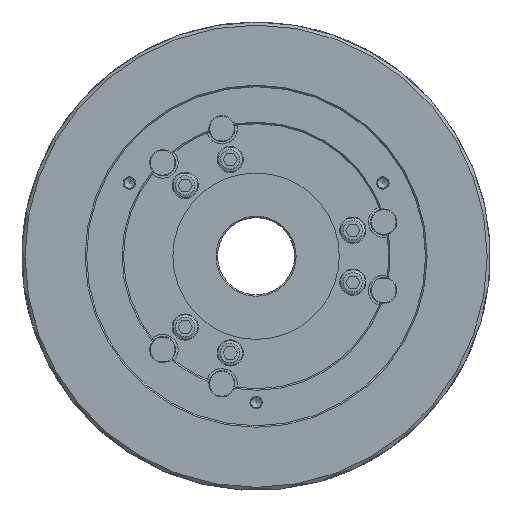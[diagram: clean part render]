
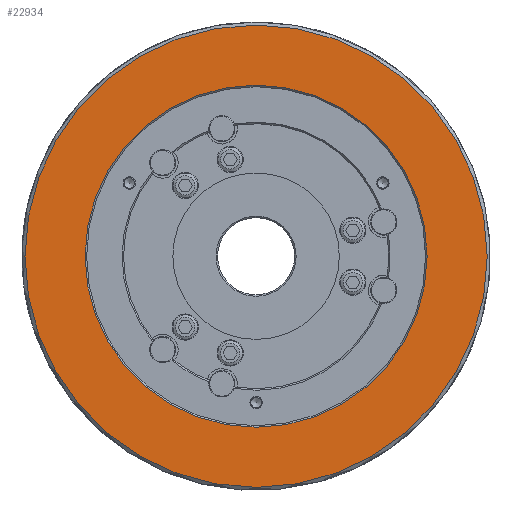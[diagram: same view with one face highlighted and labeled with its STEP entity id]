
A CAD part, left-side view. The second image highlights one B-rep face of the part: STEP entity #22934.
In plain terms, the highlighted planar face has unit normal (-1, 0, 0).
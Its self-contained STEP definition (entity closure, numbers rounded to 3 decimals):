
#3715 = CARTESIAN_POINT ( 'NONE',  ( -110., 0., 150. ) ) ;
#7917 = AXIS2_PLACEMENT_3D ( 'NONE', #88141, #73232, #28022 ) ;
#11818 = AXIS2_PLACEMENT_3D ( 'NONE', #16437, #69266, #24055 ) ;
#13168 = ORIENTED_EDGE ( 'NONE', *, *, #60218, .T. ) ;
#16437 = CARTESIAN_POINT ( 'NONE',  ( -110., 0., 0. ) ) ;
#19280 = CIRCLE ( 'NONE', #62295, 150. ) ;
#22768 = CARTESIAN_POINT ( 'NONE',  ( -110., 0., 0. ) ) ;
#22934 = ADVANCED_FACE ( 'NONE', ( #40712, #78501 ), #65582, .T. ) ;
#24055 = DIRECTION ( 'NONE',  ( 0., 0., 1. ) ) ;
#28022 = DIRECTION ( 'NONE',  ( 0., 0., 1. ) ) ;
#30368 = DIRECTION ( 'NONE',  ( 0., 0., 1. ) ) ;
#39637 = VERTEX_POINT ( 'NONE', #3715 ) ;
#40712 = FACE_BOUND ( 'NONE', #42585, .T. ) ;
#42585 = EDGE_LOOP ( 'NONE', ( #56173 ) ) ;
#53797 = CIRCLE ( 'NONE', #11818, 111. ) ;
#56173 = ORIENTED_EDGE ( 'NONE', *, *, #70745, .T. ) ;
#60218 = EDGE_CURVE ( 'NONE', #39637, #39637, #19280, .T. ) ;
#62295 = AXIS2_PLACEMENT_3D ( 'NONE', #22768, #75580, #30368 ) ;
#65582 = PLANE ( 'NONE',  #7917 ) ;
#69266 = DIRECTION ( 'NONE',  ( 1., 0., 0. ) ) ;
#70303 = VERTEX_POINT ( 'NONE', #72077 ) ;
#70745 = EDGE_CURVE ( 'NONE', #70303, #70303, #53797, .T. ) ;
#72077 = CARTESIAN_POINT ( 'NONE',  ( -110., 0., 111. ) ) ;
#72327 = EDGE_LOOP ( 'NONE', ( #13168 ) ) ;
#73232 = DIRECTION ( 'NONE',  ( -1., 0., 0. ) ) ;
#75580 = DIRECTION ( 'NONE',  ( -1., 0., 0. ) ) ;
#78501 = FACE_OUTER_BOUND ( 'NONE', #72327, .T. ) ;
#88141 = CARTESIAN_POINT ( 'NONE',  ( -110., 76., -131.636 ) ) ;
